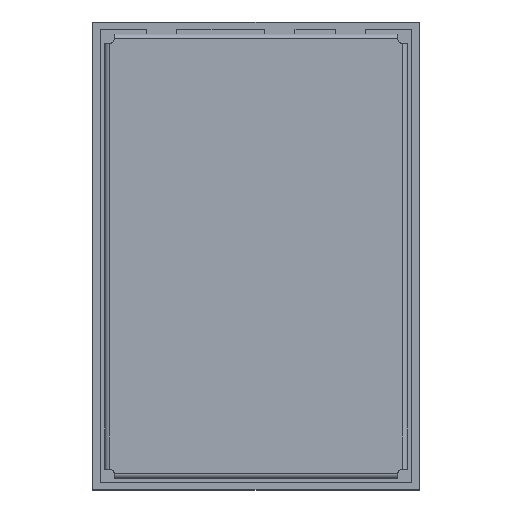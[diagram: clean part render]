
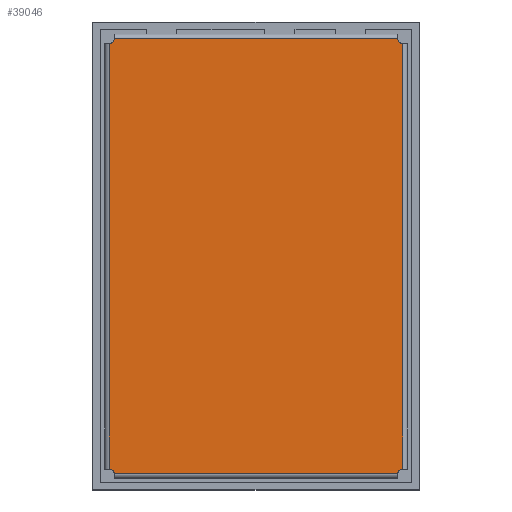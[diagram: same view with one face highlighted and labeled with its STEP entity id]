
A CAD part, top view. The second image highlights one B-rep face of the part: STEP entity #39046.
In plain terms, the highlighted planar face has unit normal (0, 0, 1) as drawn and (0, 1, 0) by its records, which use the part's own axes.
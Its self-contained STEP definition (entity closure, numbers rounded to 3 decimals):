
#726 = CARTESIAN_POINT ( 'NONE',  ( 0., 0., 0. ) ) ;
#1290 = DIRECTION ( 'NONE',  ( -1., 0., 0. ) ) ;
#1446 = VERTEX_POINT ( 'NONE', #9310 ) ;
#1658 = DIRECTION ( 'NONE',  ( 0., 1., 0. ) ) ;
#2343 = DIRECTION ( 'NONE',  ( 0., 1., 0. ) ) ;
#2951 = VERTEX_POINT ( 'NONE', #34721 ) ;
#3397 = CIRCLE ( 'NONE', #34702, 0.2 ) ;
#4424 = EDGE_LOOP ( 'NONE', ( #54582, #39462, #50441, #51639, #15941, #47794, #40500, #48168 ) ) ;
#6565 = VERTEX_POINT ( 'NONE', #44616 ) ;
#7300 = AXIS2_PLACEMENT_3D ( 'NONE', #27591, #1658, #31965 ) ;
#7493 = LINE ( 'NONE', #40355, #40662 ) ;
#7565 = CARTESIAN_POINT ( 'NONE',  ( -47.223, 0., 51.883 ) ) ;
#9310 = CARTESIAN_POINT ( 'NONE',  ( -65.223, 0., 51.883 ) ) ;
#12202 = CARTESIAN_POINT ( 'NONE',  ( -65.223, 0., 39.483 ) ) ;
#12400 = EDGE_CURVE ( 'NONE', #6565, #26837, #42748, .T. ) ;
#13007 = AXIS2_PLACEMENT_3D ( 'NONE', #726, #18128, #48381 ) ;
#13555 = VERTEX_POINT ( 'NONE', #12202 ) ;
#13771 = PLANE ( 'NONE',  #13007 ) ;
#14413 = EDGE_CURVE ( 'NONE', #1446, #26837, #50547, .T. ) ;
#14511 = DIRECTION ( 'NONE',  ( 0., 1., 0. ) ) ;
#14724 = DIRECTION ( 'NONE',  ( 0., 1., 0. ) ) ;
#14988 = CARTESIAN_POINT ( 'NONE',  ( -47.223, 0., 39.483 ) ) ;
#15941 = ORIENTED_EDGE ( 'NONE', *, *, #47191, .T. ) ;
#17218 = EDGE_CURVE ( 'NONE', #2951, #20120, #19576, .T. ) ;
#17513 = CARTESIAN_POINT ( 'NONE',  ( -65.423, 0., 51.883 ) ) ;
#18128 = DIRECTION ( 'NONE',  ( 0., 1., 0. ) ) ;
#18334 = CARTESIAN_POINT ( 'NONE',  ( -65.423, 0., 39.483 ) ) ;
#19576 = CIRCLE ( 'NONE', #23714, 0.2 ) ;
#20120 = VERTEX_POINT ( 'NONE', #7565 ) ;
#21428 = AXIS2_PLACEMENT_3D ( 'NONE', #40676, #14724, #45025 ) ;
#21886 = DIRECTION ( 'NONE',  ( 1., 0., 0. ) ) ;
#22082 = CARTESIAN_POINT ( 'NONE',  ( -65.423, 0., 51.683 ) ) ;
#23714 = AXIS2_PLACEMENT_3D ( 'NONE', #28305, #2343, #32671 ) ;
#26837 = VERTEX_POINT ( 'NONE', #22082 ) ;
#27591 = CARTESIAN_POINT ( 'NONE',  ( -65.423, 0., 39.483 ) ) ;
#28283 = VECTOR ( 'NONE', #21886, 1000. ) ;
#28305 = CARTESIAN_POINT ( 'NONE',  ( -47.023, 0., 51.883 ) ) ;
#28345 = VECTOR ( 'NONE', #1290, 1000. ) ;
#31143 = CIRCLE ( 'NONE', #7300, 0.2 ) ;
#31589 = EDGE_CURVE ( 'NONE', #37055, #13555, #39832, .T. ) ;
#31887 = DIRECTION ( 'NONE',  ( 0., 0., -1. ) ) ;
#31965 = DIRECTION ( 'NONE',  ( 0., 0., 1. ) ) ;
#32671 = DIRECTION ( 'NONE',  ( 0., 0., 1. ) ) ;
#34702 = AXIS2_PLACEMENT_3D ( 'NONE', #40447, #14511, #44798 ) ;
#34721 = CARTESIAN_POINT ( 'NONE',  ( -47.023, 0., 51.683 ) ) ;
#37055 = VERTEX_POINT ( 'NONE', #14988 ) ;
#37307 = DIRECTION ( 'NONE',  ( 0., 0., 1. ) ) ;
#39046 = ADVANCED_FACE ( 'NONE', ( #55494 ), #13771, .T. ) ;
#39462 = ORIENTED_EDGE ( 'NONE', *, *, #14413, .F. ) ;
#39776 = LINE ( 'NONE', #17513, #28283 ) ;
#39832 = LINE ( 'NONE', #18334, #28345 ) ;
#40355 = CARTESIAN_POINT ( 'NONE',  ( -47.023, 0., 39.483 ) ) ;
#40447 = CARTESIAN_POINT ( 'NONE',  ( -47.023, 0., 39.483 ) ) ;
#40500 = ORIENTED_EDGE ( 'NONE', *, *, #31589, .T. ) ;
#40662 = VECTOR ( 'NONE', #31887, 1000. ) ;
#40666 = VERTEX_POINT ( 'NONE', #42345 ) ;
#40676 = CARTESIAN_POINT ( 'NONE',  ( -65.423, 0., 51.883 ) ) ;
#41398 = VECTOR ( 'NONE', #37307, 1000. ) ;
#41512 = CARTESIAN_POINT ( 'NONE',  ( -65.423, 0., 39.483 ) ) ;
#42345 = CARTESIAN_POINT ( 'NONE',  ( -47.023, 0., 39.683 ) ) ;
#42748 = LINE ( 'NONE', #41512, #41398 ) ;
#44616 = CARTESIAN_POINT ( 'NONE',  ( -65.423, 0., 39.683 ) ) ;
#44798 = DIRECTION ( 'NONE',  ( 0., 0., 1. ) ) ;
#44978 = EDGE_CURVE ( 'NONE', #1446, #20120, #39776, .T. ) ;
#45025 = DIRECTION ( 'NONE',  ( 0., 0., 1. ) ) ;
#47191 = EDGE_CURVE ( 'NONE', #2951, #40666, #7493, .T. ) ;
#47677 = EDGE_CURVE ( 'NONE', #37055, #40666, #3397, .T. ) ;
#47794 = ORIENTED_EDGE ( 'NONE', *, *, #47677, .F. ) ;
#48168 = ORIENTED_EDGE ( 'NONE', *, *, #51678, .F. ) ;
#48381 = DIRECTION ( 'NONE',  ( 0., 0., 1. ) ) ;
#50441 = ORIENTED_EDGE ( 'NONE', *, *, #44978, .T. ) ;
#50547 = CIRCLE ( 'NONE', #21428, 0.2 ) ;
#51639 = ORIENTED_EDGE ( 'NONE', *, *, #17218, .F. ) ;
#51678 = EDGE_CURVE ( 'NONE', #6565, #13555, #31143, .T. ) ;
#54582 = ORIENTED_EDGE ( 'NONE', *, *, #12400, .T. ) ;
#55494 = FACE_OUTER_BOUND ( 'NONE', #4424, .T. ) ;
